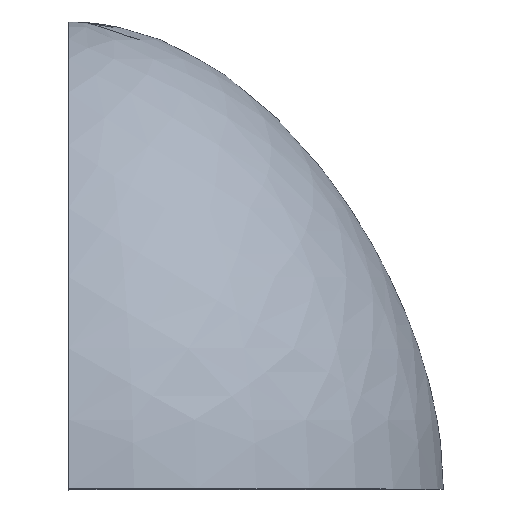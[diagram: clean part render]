
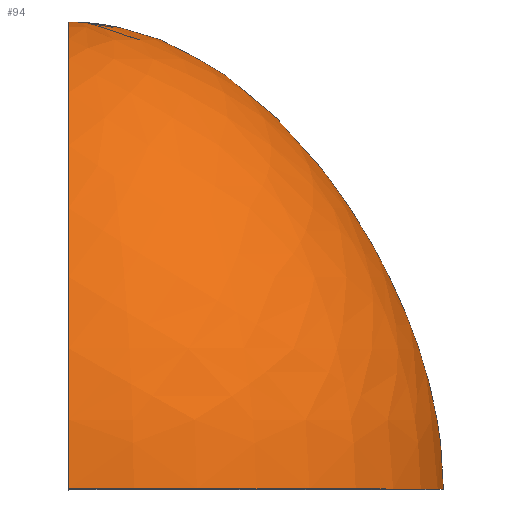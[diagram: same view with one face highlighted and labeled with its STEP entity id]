
A CAD part, top view. The second image highlights one B-rep face of the part: STEP entity #94.
In plain terms, the highlighted face is a revolution surface.
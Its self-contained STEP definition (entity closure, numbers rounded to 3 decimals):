
#52=CARTESIAN_POINT('Control Point',(0.,0.,89.)) ;
#53=CARTESIAN_POINT('Control Point',(0.,28.455,89.)) ;
#54=CARTESIAN_POINT('Control Point',(0.,59.762,77.421)) ;
#55=CARTESIAN_POINT('Control Point',(0.,93.921,54.262)) ;
#56=CARTESIAN_POINT('Control Point',(0.,111.,28.455)) ;
#57=CARTESIAN_POINT('Control Point',(0.,111.,0.)) ;
#58=CARTESIAN_POINT('Axis1P Location',(0.,0.,0.)) ;
#63=CARTESIAN_POINT('Control Point',(0.,0.,-89.)) ;
#64=CARTESIAN_POINT('Control Point',(0.,28.455,-89.)) ;
#65=CARTESIAN_POINT('Control Point',(0.,59.762,-77.421)) ;
#66=CARTESIAN_POINT('Control Point',(0.,93.921,-54.262)) ;
#67=CARTESIAN_POINT('Control Point',(0.,111.,-28.455)) ;
#68=CARTESIAN_POINT('Control Point',(0.,111.,0.)) ;
#69=CARTESIAN_POINT('Vertex',(0.,0.,-89.)) ;
#71=CARTESIAN_POINT('Vertex',(0.,111.,0.)) ;
#75=CARTESIAN_POINT('Control Point',(0.,0.,89.)) ;
#76=CARTESIAN_POINT('Control Point',(0.,28.455,89.)) ;
#77=CARTESIAN_POINT('Control Point',(0.,59.762,77.421)) ;
#78=CARTESIAN_POINT('Control Point',(0.,93.921,54.262)) ;
#79=CARTESIAN_POINT('Control Point',(0.,111.,28.455)) ;
#80=CARTESIAN_POINT('Control Point',(0.,111.,0.)) ;
#81=CARTESIAN_POINT('Vertex',(0.,0.,89.)) ;
#84=CARTESIAN_POINT('Axis2P3D Location',(0.,0.,0.)) ;
#59=DIRECTION('Axis1P Direction',(0.,1.,0.)) ;
#85=DIRECTION('Axis2P3D Direction',(0.,1.,0.)) ;
#86=AXIS2_PLACEMENT_3D('Circle Axis2P3D',#84,#85,$) ;
#90=ORIENTED_EDGE('',*,*,#73,.T.) ;
#91=ORIENTED_EDGE('',*,*,#83,.F.) ;
#92=ORIENTED_EDGE('',*,*,#88,.T.) ;
#94=ADVANCED_FACE('PartBody',(#93),#61,.T.) ;
#60=AXIS1_PLACEMENT('Revolution Surface Axis1P',#58,#59) ;
#51=B_SPLINE_CURVE_WITH_KNOTS('',5,(#52,#53,#54,#55,#56,#57),.UNSPECIFIED.,.F.,.U.,(6,6),(0.,142.274),.UNSPECIFIED.) ;
#62=B_SPLINE_CURVE_WITH_KNOTS('',5,(#63,#64,#65,#66,#67,#68),.UNSPECIFIED.,.F.,.U.,(6,6),(0.,142.274),.UNSPECIFIED.) ;
#74=B_SPLINE_CURVE_WITH_KNOTS('',5,(#75,#76,#77,#78,#79,#80),.UNSPECIFIED.,.F.,.U.,(6,6),(0.,142.274),.UNSPECIFIED.) ;
#87=CIRCLE('generated circle',#86,89.) ;
#73=EDGE_CURVE('',#70,#72,#62,.T.) ;
#83=EDGE_CURVE('',#82,#72,#74,.T.) ;
#88=EDGE_CURVE('',#82,#70,#87,.T.) ;
#89=EDGE_LOOP('',(#90,#91,#92)) ;
#93=FACE_OUTER_BOUND('',#89,.T.) ;
#61=SURFACE_OF_REVOLUTION('Surface of Revolution',#51,#60) ;
#70=VERTEX_POINT('',#69) ;
#72=VERTEX_POINT('',#71) ;
#82=VERTEX_POINT('',#81) ;
